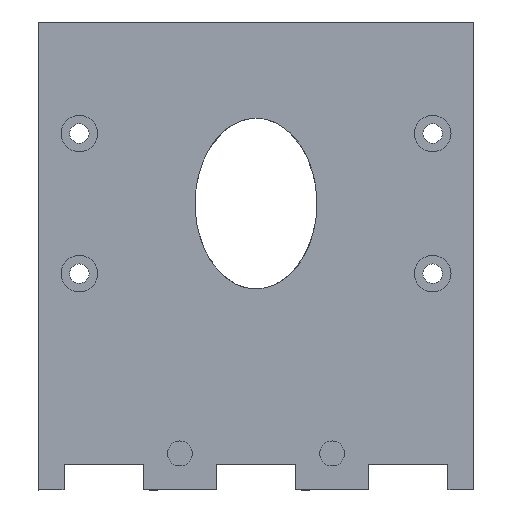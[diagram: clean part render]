
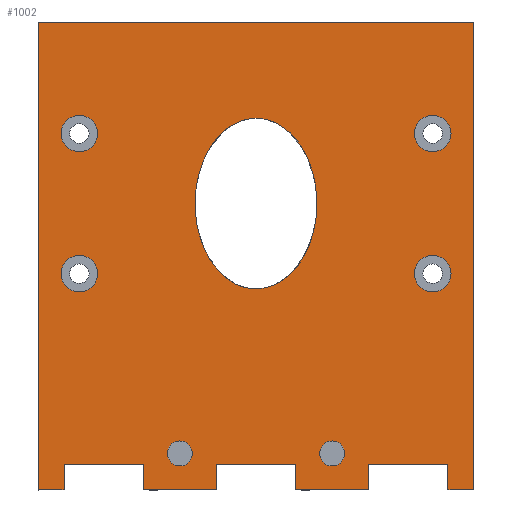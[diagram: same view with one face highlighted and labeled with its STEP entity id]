
A CAD part, front view. The second image highlights one B-rep face of the part: STEP entity #1002.
In plain terms, the highlighted planar face has unit normal (0, -1, 0).
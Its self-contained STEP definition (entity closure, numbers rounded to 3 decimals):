
#48=CIRCLE('',#1084,3.);
#49=CIRCLE('',#1085,3.);
#50=CIRCLE('',#1086,3.);
#51=CIRCLE('',#1087,3.);
#52=CIRCLE('',#1088,2.05);
#53=CIRCLE('',#1089,2.05);
#91=FACE_BOUND('',#179,.T.);
#92=FACE_BOUND('',#180,.T.);
#93=FACE_BOUND('',#181,.T.);
#94=FACE_BOUND('',#182,.T.);
#95=FACE_BOUND('',#183,.T.);
#96=FACE_BOUND('',#184,.T.);
#97=FACE_BOUND('',#185,.T.);
#102=ELLIPSE('',#1083,14.,10.);
#114=FACE_OUTER_BOUND('',#178,.T.);
#178=EDGE_LOOP('',(#699,#700,#701,#702,#703,#704,#705,#706,#707,#708,#709,
#710,#711,#712,#713,#714));
#179=EDGE_LOOP('',(#715));
#180=EDGE_LOOP('',(#716));
#181=EDGE_LOOP('',(#717));
#182=EDGE_LOOP('',(#718));
#183=EDGE_LOOP('',(#719));
#184=EDGE_LOOP('',(#720));
#185=EDGE_LOOP('',(#721));
#244=LINE('',#1479,#338);
#252=LINE('',#1548,#346);
#254=LINE('',#1554,#348);
#255=LINE('',#1556,#349);
#256=LINE('',#1558,#350);
#257=LINE('',#1560,#351);
#258=LINE('',#1562,#352);
#259=LINE('',#1564,#353);
#260=LINE('',#1566,#354);
#261=LINE('',#1568,#355);
#262=LINE('',#1570,#356);
#263=LINE('',#1572,#357);
#264=LINE('',#1574,#358);
#265=LINE('',#1576,#359);
#266=LINE('',#1578,#360);
#267=LINE('',#1579,#361);
#338=VECTOR('',#1179,10.);
#346=VECTOR('',#1205,10.);
#348=VECTOR('',#1211,10.);
#349=VECTOR('',#1212,10.);
#350=VECTOR('',#1213,10.);
#351=VECTOR('',#1214,10.);
#352=VECTOR('',#1215,10.);
#353=VECTOR('',#1216,10.);
#354=VECTOR('',#1217,10.);
#355=VECTOR('',#1218,10.);
#356=VECTOR('',#1219,10.);
#357=VECTOR('',#1220,10.);
#358=VECTOR('',#1221,10.);
#359=VECTOR('',#1222,10.);
#360=VECTOR('',#1223,10.);
#361=VECTOR('',#1224,10.);
#430=VERTEX_POINT('',#1473);
#432=VERTEX_POINT('',#1477);
#448=VERTEX_POINT('',#1547);
#450=VERTEX_POINT('',#1553);
#451=VERTEX_POINT('',#1555);
#452=VERTEX_POINT('',#1557);
#453=VERTEX_POINT('',#1559);
#454=VERTEX_POINT('',#1561);
#455=VERTEX_POINT('',#1563);
#456=VERTEX_POINT('',#1565);
#457=VERTEX_POINT('',#1567);
#458=VERTEX_POINT('',#1569);
#459=VERTEX_POINT('',#1571);
#460=VERTEX_POINT('',#1573);
#461=VERTEX_POINT('',#1575);
#462=VERTEX_POINT('',#1577);
#463=VERTEX_POINT('',#1580);
#464=VERTEX_POINT('',#1582);
#465=VERTEX_POINT('',#1584);
#466=VERTEX_POINT('',#1586);
#467=VERTEX_POINT('',#1588);
#468=VERTEX_POINT('',#1590);
#469=VERTEX_POINT('',#1592);
#528=EDGE_CURVE('',#430,#432,#244,.T.);
#545=EDGE_CURVE('',#448,#430,#252,.T.);
#548=EDGE_CURVE('',#432,#450,#254,.T.);
#549=EDGE_CURVE('',#451,#450,#255,.T.);
#550=EDGE_CURVE('',#451,#452,#256,.F.);
#551=EDGE_CURVE('',#452,#453,#257,.T.);
#552=EDGE_CURVE('',#453,#454,#258,.F.);
#553=EDGE_CURVE('',#455,#454,#259,.T.);
#554=EDGE_CURVE('',#455,#456,#260,.F.);
#555=EDGE_CURVE('',#456,#457,#261,.T.);
#556=EDGE_CURVE('',#457,#458,#262,.F.);
#557=EDGE_CURVE('',#459,#458,#263,.T.);
#558=EDGE_CURVE('',#459,#460,#264,.F.);
#559=EDGE_CURVE('',#460,#461,#265,.T.);
#560=EDGE_CURVE('',#461,#462,#266,.T.);
#561=EDGE_CURVE('',#448,#462,#267,.T.);
#562=EDGE_CURVE('',#463,#463,#102,.T.);
#563=EDGE_CURVE('',#464,#464,#48,.T.);
#564=EDGE_CURVE('',#465,#465,#49,.T.);
#565=EDGE_CURVE('',#466,#466,#50,.T.);
#566=EDGE_CURVE('',#467,#467,#51,.T.);
#567=EDGE_CURVE('',#468,#468,#52,.F.);
#568=EDGE_CURVE('',#469,#469,#53,.F.);
#699=ORIENTED_EDGE('',*,*,#528,.T.);
#700=ORIENTED_EDGE('',*,*,#548,.T.);
#701=ORIENTED_EDGE('',*,*,#549,.F.);
#702=ORIENTED_EDGE('',*,*,#550,.T.);
#703=ORIENTED_EDGE('',*,*,#551,.T.);
#704=ORIENTED_EDGE('',*,*,#552,.T.);
#705=ORIENTED_EDGE('',*,*,#553,.F.);
#706=ORIENTED_EDGE('',*,*,#554,.T.);
#707=ORIENTED_EDGE('',*,*,#555,.T.);
#708=ORIENTED_EDGE('',*,*,#556,.T.);
#709=ORIENTED_EDGE('',*,*,#557,.F.);
#710=ORIENTED_EDGE('',*,*,#558,.T.);
#711=ORIENTED_EDGE('',*,*,#559,.T.);
#712=ORIENTED_EDGE('',*,*,#560,.T.);
#713=ORIENTED_EDGE('',*,*,#561,.F.);
#714=ORIENTED_EDGE('',*,*,#545,.T.);
#715=ORIENTED_EDGE('',*,*,#562,.T.);
#716=ORIENTED_EDGE('',*,*,#563,.T.);
#717=ORIENTED_EDGE('',*,*,#564,.T.);
#718=ORIENTED_EDGE('',*,*,#565,.T.);
#719=ORIENTED_EDGE('',*,*,#566,.T.);
#720=ORIENTED_EDGE('',*,*,#567,.T.);
#721=ORIENTED_EDGE('',*,*,#568,.T.);
#972=PLANE('',#1082);
#1002=ADVANCED_FACE('',(#114,#91,#92,#93,#94,#95,#96,#97),#972,.F.);
#1082=AXIS2_PLACEMENT_3D('',#1552,#1209,#1210);
#1083=AXIS2_PLACEMENT_3D('',#1581,#1225,#1226);
#1084=AXIS2_PLACEMENT_3D('',#1583,#1227,#1228);
#1085=AXIS2_PLACEMENT_3D('',#1585,#1229,#1230);
#1086=AXIS2_PLACEMENT_3D('',#1587,#1231,#1232);
#1087=AXIS2_PLACEMENT_3D('',#1589,#1233,#1234);
#1088=AXIS2_PLACEMENT_3D('',#1591,#1235,#1236);
#1089=AXIS2_PLACEMENT_3D('',#1593,#1237,#1238);
#1179=DIRECTION('',(-1.,0.,0.));
#1205=DIRECTION('',(0.,0.,1.));
#1209=DIRECTION('center_axis',(0.,1.,0.));
#1210=DIRECTION('ref_axis',(-1.,0.,0.));
#1211=DIRECTION('',(0.,0.,-1.));
#1212=DIRECTION('',(-1.,0.,0.));
#1213=DIRECTION('',(0.,0.,-1.));
#1214=DIRECTION('',(1.,0.,0.));
#1215=DIRECTION('',(0.,0.,1.));
#1216=DIRECTION('',(-1.,0.,0.));
#1217=DIRECTION('',(0.,0.,-1.));
#1218=DIRECTION('',(1.,0.,0.));
#1219=DIRECTION('',(0.,0.,1.));
#1220=DIRECTION('',(-1.,0.,0.));
#1221=DIRECTION('',(0.,0.,-1.));
#1222=DIRECTION('',(1.,0.,0.));
#1223=DIRECTION('',(0.,0.,-1.));
#1224=DIRECTION('',(-1.,0.,0.));
#1225=DIRECTION('center_axis',(0.,1.,0.));
#1226=DIRECTION('ref_axis',(0.,0.,-1.));
#1227=DIRECTION('center_axis',(0.,1.,0.));
#1228=DIRECTION('ref_axis',(0.,0.,-1.));
#1229=DIRECTION('center_axis',(0.,1.,0.));
#1230=DIRECTION('ref_axis',(0.,0.,-1.));
#1231=DIRECTION('center_axis',(0.,1.,0.));
#1232=DIRECTION('ref_axis',(0.,0.,-1.));
#1233=DIRECTION('center_axis',(0.,1.,0.));
#1234=DIRECTION('ref_axis',(0.,0.,-1.));
#1235=DIRECTION('center_axis',(0.,-1.,0.));
#1236=DIRECTION('ref_axis',(-1.,0.,0.));
#1237=DIRECTION('center_axis',(0.,-1.,0.));
#1238=DIRECTION('ref_axis',(-1.,0.,0.));
#1473=CARTESIAN_POINT('',(35.426,30.,58.884));
#1477=CARTESIAN_POINT('',(-35.974,30.,58.884));
#1479=CARTESIAN_POINT('',(-0.274,30.,58.884));
#1547=CARTESIAN_POINT('',(35.426,30.,-17.916));
#1548=CARTESIAN_POINT('',(35.426,30.,65.084));
#1552=CARTESIAN_POINT('Origin',(-0.274,30.,24.084));
#1553=CARTESIAN_POINT('',(-35.974,30.,-17.916));
#1554=CARTESIAN_POINT('',(-35.974,30.,45.084));
#1555=CARTESIAN_POINT('',(-31.774,30.,-17.916));
#1556=CARTESIAN_POINT('',(41.226,30.,-17.916));
#1557=CARTESIAN_POINT('',(-31.774,30.,-13.758));
#1558=CARTESIAN_POINT('',(-31.774,30.,8.084));
#1559=CARTESIAN_POINT('',(-18.774,30.,-13.758));
#1560=CARTESIAN_POINT('',(-17.774,30.,-13.758));
#1561=CARTESIAN_POINT('',(-18.774,30.,-17.916));
#1562=CARTESIAN_POINT('',(-18.774,30.,3.084));
#1563=CARTESIAN_POINT('',(-6.774,30.,-17.916));
#1564=CARTESIAN_POINT('',(41.226,30.,-17.916));
#1565=CARTESIAN_POINT('',(-6.774,30.,-13.758));
#1566=CARTESIAN_POINT('',(-6.774,30.,8.084));
#1567=CARTESIAN_POINT('',(6.226,30.,-13.758));
#1568=CARTESIAN_POINT('',(7.226,30.,-13.758));
#1569=CARTESIAN_POINT('',(6.226,30.,-17.916));
#1570=CARTESIAN_POINT('',(6.226,30.,3.084));
#1571=CARTESIAN_POINT('',(18.226,30.,-17.916));
#1572=CARTESIAN_POINT('',(41.226,30.,-17.916));
#1573=CARTESIAN_POINT('',(18.226,30.,-13.758));
#1574=CARTESIAN_POINT('',(18.226,30.,8.084));
#1575=CARTESIAN_POINT('',(31.226,30.,-13.758));
#1576=CARTESIAN_POINT('',(17.226,30.,-13.758));
#1577=CARTESIAN_POINT('',(31.226,30.,-17.916));
#1578=CARTESIAN_POINT('',(31.226,30.,3.084));
#1579=CARTESIAN_POINT('',(41.226,30.,-17.916));
#1580=CARTESIAN_POINT('',(-0.274,30.,43.084));
#1581=CARTESIAN_POINT('Origin',(-0.274,30.,29.084));
#1582=CARTESIAN_POINT('',(28.726,30.,20.584));
#1583=CARTESIAN_POINT('Origin',(28.726,30.,17.584));
#1584=CARTESIAN_POINT('',(28.726,30.,43.584));
#1585=CARTESIAN_POINT('Origin',(28.726,30.,40.584));
#1586=CARTESIAN_POINT('',(-29.274,30.,20.584));
#1587=CARTESIAN_POINT('Origin',(-29.274,30.,17.584));
#1588=CARTESIAN_POINT('',(-29.274,30.,43.584));
#1589=CARTESIAN_POINT('Origin',(-29.274,30.,40.584));
#1590=CARTESIAN_POINT('',(14.276,30.,-11.916));
#1591=CARTESIAN_POINT('Origin',(12.226,30.,-11.916));
#1592=CARTESIAN_POINT('',(-10.724,30.,-11.916));
#1593=CARTESIAN_POINT('Origin',(-12.774,30.,-11.916));
